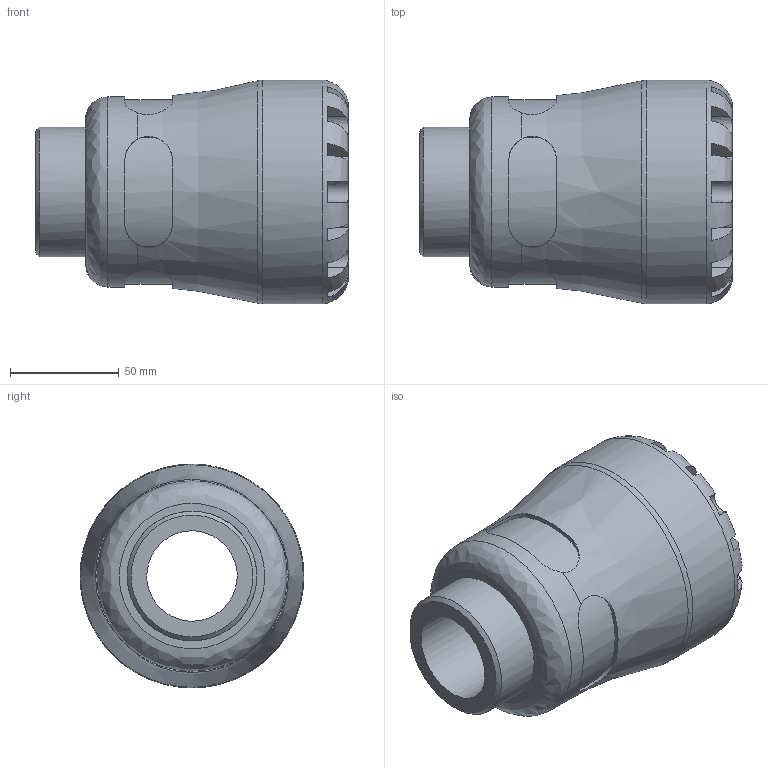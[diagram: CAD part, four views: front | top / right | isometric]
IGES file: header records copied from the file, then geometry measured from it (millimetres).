
Global section: file name: 157200063020; native system: Autodesk Inventor 2019; preprocessor: unknown; author: KIM; date: 20231021.230251; units: millimetre
Bounding box: 144 x 103 x 102.99 mm (x, y, z)
Volume: 531527.1 mm3; surface area: 77962.7 mm2
Topology: 1 solids, 1 shells, 107 faces, 293 edges, 190 vertices
Faces by surface type: bspline 107
